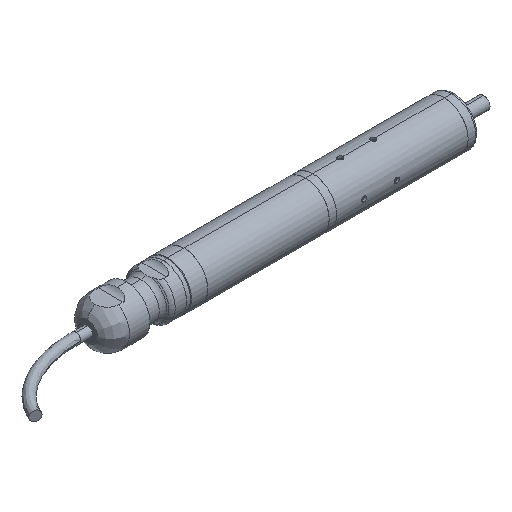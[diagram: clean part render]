
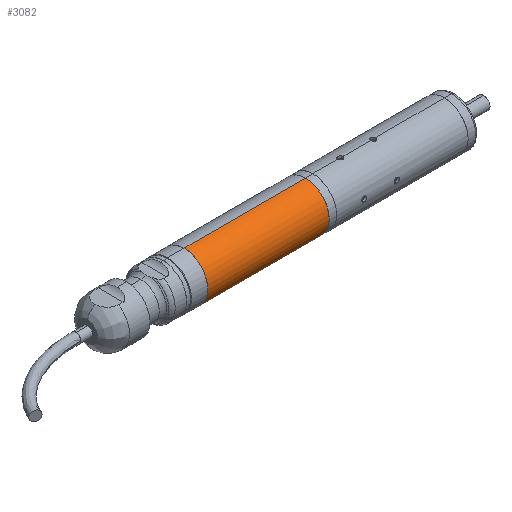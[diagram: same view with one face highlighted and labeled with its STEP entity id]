
A CAD part, isometric view. The second image highlights one B-rep face of the part: STEP entity #3082.
In plain terms, the highlighted cylindrical face has radius 9.525 mm (diameter 19.05 mm), a partial arc.
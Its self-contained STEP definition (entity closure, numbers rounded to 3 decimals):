
#246 = EDGE_CURVE ( 'NONE', #3616, #3238, #726, .T. ) ;
#457 = ORIENTED_EDGE ( 'NONE', *, *, #3777, .F. ) ;
#458 = FACE_OUTER_BOUND ( 'NONE', #4669, .T. ) ;
#601 = VERTEX_POINT ( 'NONE', #5240 ) ;
#705 = EDGE_CURVE ( 'NONE', #3616, #3828, #3371, .T. ) ;
#726 = LINE ( 'NONE', #1934, #3456 ) ;
#800 = DIRECTION ( 'NONE',  ( -1., 0., 0. ) ) ;
#825 = ORIENTED_EDGE ( 'NONE', *, *, #246, .F. ) ;
#826 = DIRECTION ( 'NONE',  ( 0., 0., 1. ) ) ;
#833 = DIRECTION ( 'NONE',  ( -1., 0., 0. ) ) ;
#946 = ORIENTED_EDGE ( 'NONE', *, *, #705, .T. ) ;
#984 = CARTESIAN_POINT ( 'NONE',  ( -61., 0., 9.525 ) ) ;
#1043 = CIRCLE ( 'NONE', #1658, 9.525 ) ;
#1178 = CARTESIAN_POINT ( 'NONE',  ( -12.5, 0., 0. ) ) ;
#1221 = CARTESIAN_POINT ( 'NONE',  ( -61., 0., -9.525 ) ) ;
#1252 = AXIS2_PLACEMENT_3D ( 'NONE', #1178, #833, #1623 ) ;
#1623 = DIRECTION ( 'NONE',  ( 0., 0., 1. ) ) ;
#1658 = AXIS2_PLACEMENT_3D ( 'NONE', #4828, #2237, #2696 ) ;
#1934 = CARTESIAN_POINT ( 'NONE',  ( -61., 0., -9.525 ) ) ;
#2237 = DIRECTION ( 'NONE',  ( -1., 0., 0. ) ) ;
#2508 = CARTESIAN_POINT ( 'NONE',  ( -61., 0., 0. ) ) ;
#2659 = DIRECTION ( 'NONE',  ( -1., 0., 0. ) ) ;
#2696 = DIRECTION ( 'NONE',  ( 0., 0., 1. ) ) ;
#2756 = DIRECTION ( 'NONE',  ( -1., 0., 0. ) ) ;
#3082 = ADVANCED_FACE ( 'NONE', ( #458 ), #4584, .T. ) ;
#3238 = VERTEX_POINT ( 'NONE', #1221 ) ;
#3329 = AXIS2_PLACEMENT_3D ( 'NONE', #2508, #800, #826 ) ;
#3371 = CIRCLE ( 'NONE', #1252, 9.525 ) ;
#3385 = EDGE_CURVE ( 'NONE', #3828, #601, #3920, .T. ) ;
#3456 = VECTOR ( 'NONE', #2756, 1000. ) ;
#3616 = VERTEX_POINT ( 'NONE', #5045 ) ;
#3777 = EDGE_CURVE ( 'NONE', #3238, #601, #1043, .T. ) ;
#3828 = VERTEX_POINT ( 'NONE', #3961 ) ;
#3920 = LINE ( 'NONE', #984, #4929 ) ;
#3961 = CARTESIAN_POINT ( 'NONE',  ( -12.5, 0., 9.525 ) ) ;
#4584 = CYLINDRICAL_SURFACE ( 'NONE', #3329, 9.525 ) ;
#4669 = EDGE_LOOP ( 'NONE', ( #825, #946, #5126, #457 ) ) ;
#4828 = CARTESIAN_POINT ( 'NONE',  ( -61., 0., 0. ) ) ;
#4929 = VECTOR ( 'NONE', #2659, 1000. ) ;
#5045 = CARTESIAN_POINT ( 'NONE',  ( -12.5, 0., -9.525 ) ) ;
#5126 = ORIENTED_EDGE ( 'NONE', *, *, #3385, .T. ) ;
#5240 = CARTESIAN_POINT ( 'NONE',  ( -61., 0., 9.525 ) ) ;
